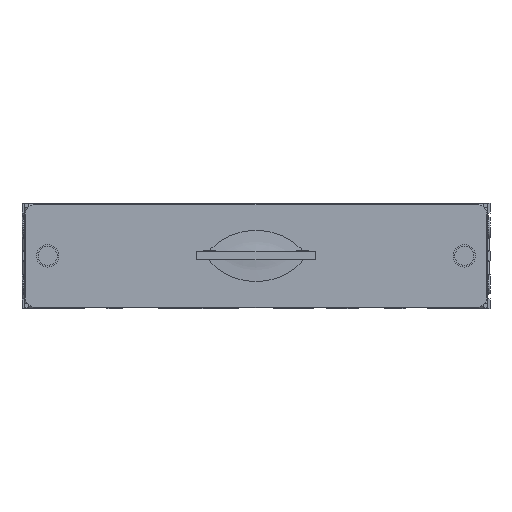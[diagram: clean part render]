
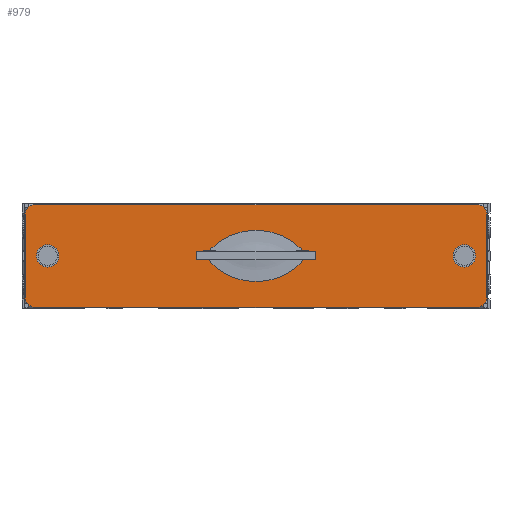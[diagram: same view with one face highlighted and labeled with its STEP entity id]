
A CAD part, top view. The second image highlights one B-rep face of the part: STEP entity #979.
In plain terms, the highlighted planar face has unit normal (0, 0, 1).
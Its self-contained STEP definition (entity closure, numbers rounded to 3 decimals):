
#26 = VERTEX_POINT('',#27);
#27 = CARTESIAN_POINT('',(8.,0.,0.4));
#82 = EDGE_CURVE('',#26,#83,#85,.T.);
#83 = VERTEX_POINT('',#84);
#84 = CARTESIAN_POINT('',(-8.,0.,0.4));
#85 = CIRCLE('',#86,10.);
#86 = AXIS2_PLACEMENT_3D('',#87,#88,#89);
#87 = CARTESIAN_POINT('',(0.,-6.,0.4));
#88 = DIRECTION('',(0.,0.,1.));
#89 = DIRECTION('',(1.,0.,0.));
#488 = EDGE_CURVE('',#83,#26,#489,.T.);
#489 = CIRCLE('',#490,10.);
#490 = AXIS2_PLACEMENT_3D('',#491,#492,#493);
#491 = CARTESIAN_POINT('',(0.,6.,0.4));
#492 = DIRECTION('',(0.,0.,1.));
#493 = DIRECTION('',(-1.,0.,0.));
#979 = ADVANCED_FACE('',(#980,#1050,#1061,#1065),#1076,.T.);
#980 = FACE_BOUND('',#981,.T.);
#981 = EDGE_LOOP('',(#982,#992,#1001,#1009,#1018,#1026,#1035,#1043));
#982 = ORIENTED_EDGE('',*,*,#983,.F.);
#983 = EDGE_CURVE('',#984,#986,#988,.T.);
#984 = VERTEX_POINT('',#985);
#985 = CARTESIAN_POINT('',(-36.,-6.5,0.4));
#986 = VERTEX_POINT('',#987);
#987 = CARTESIAN_POINT('',(-36.,6.5,0.4));
#988 = LINE('',#989,#990);
#989 = CARTESIAN_POINT('',(-36.,-8.,0.4));
#990 = VECTOR('',#991,1.);
#991 = DIRECTION('',(0.,1.,0.));
#992 = ORIENTED_EDGE('',*,*,#993,.T.);
#993 = EDGE_CURVE('',#984,#994,#996,.T.);
#994 = VERTEX_POINT('',#995);
#995 = CARTESIAN_POINT('',(-34.5,-8.,0.4));
#996 = CIRCLE('',#997,1.5);
#997 = AXIS2_PLACEMENT_3D('',#998,#999,#1000);
#998 = CARTESIAN_POINT('',(-34.5,-6.5,0.4));
#999 = DIRECTION('',(-0.,0.,1.));
#1000 = DIRECTION('',(0.,-1.,0.));
#1001 = ORIENTED_EDGE('',*,*,#1002,.T.);
#1002 = EDGE_CURVE('',#994,#1003,#1005,.T.);
#1003 = VERTEX_POINT('',#1004);
#1004 = CARTESIAN_POINT('',(34.5,-8.,0.4));
#1005 = LINE('',#1006,#1007);
#1006 = CARTESIAN_POINT('',(-36.,-8.,0.4));
#1007 = VECTOR('',#1008,1.);
#1008 = DIRECTION('',(1.,0.,0.));
#1009 = ORIENTED_EDGE('',*,*,#1010,.T.);
#1010 = EDGE_CURVE('',#1003,#1011,#1013,.T.);
#1011 = VERTEX_POINT('',#1012);
#1012 = CARTESIAN_POINT('',(36.,-6.5,0.4));
#1013 = CIRCLE('',#1014,1.5);
#1014 = AXIS2_PLACEMENT_3D('',#1015,#1016,#1017);
#1015 = CARTESIAN_POINT('',(34.5,-6.5,0.4));
#1016 = DIRECTION('',(-0.,0.,1.));
#1017 = DIRECTION('',(0.,-1.,0.));
#1018 = ORIENTED_EDGE('',*,*,#1019,.T.);
#1019 = EDGE_CURVE('',#1011,#1020,#1022,.T.);
#1020 = VERTEX_POINT('',#1021);
#1021 = CARTESIAN_POINT('',(36.,6.5,0.4));
#1022 = LINE('',#1023,#1024);
#1023 = CARTESIAN_POINT('',(36.,-8.,0.4));
#1024 = VECTOR('',#1025,1.);
#1025 = DIRECTION('',(0.,1.,0.));
#1026 = ORIENTED_EDGE('',*,*,#1027,.F.);
#1027 = EDGE_CURVE('',#1028,#1020,#1030,.T.);
#1028 = VERTEX_POINT('',#1029);
#1029 = CARTESIAN_POINT('',(34.5,8.,0.4));
#1030 = CIRCLE('',#1031,1.5);
#1031 = AXIS2_PLACEMENT_3D('',#1032,#1033,#1034);
#1032 = CARTESIAN_POINT('',(34.5,6.5,0.4));
#1033 = DIRECTION('',(-0.,-0.,-1.));
#1034 = DIRECTION('',(0.,-1.,0.));
#1035 = ORIENTED_EDGE('',*,*,#1036,.F.);
#1036 = EDGE_CURVE('',#1037,#1028,#1039,.T.);
#1037 = VERTEX_POINT('',#1038);
#1038 = CARTESIAN_POINT('',(-34.5,8.,0.4));
#1039 = LINE('',#1040,#1041);
#1040 = CARTESIAN_POINT('',(-36.,8.,0.4));
#1041 = VECTOR('',#1042,1.);
#1042 = DIRECTION('',(1.,0.,0.));
#1043 = ORIENTED_EDGE('',*,*,#1044,.F.);
#1044 = EDGE_CURVE('',#986,#1037,#1045,.T.);
#1045 = CIRCLE('',#1046,1.5);
#1046 = AXIS2_PLACEMENT_3D('',#1047,#1048,#1049);
#1047 = CARTESIAN_POINT('',(-34.5,6.5,0.4));
#1048 = DIRECTION('',(-0.,-0.,-1.));
#1049 = DIRECTION('',(0.,-1.,0.));
#1050 = FACE_BOUND('',#1051,.T.);
#1051 = EDGE_LOOP('',(#1052));
#1052 = ORIENTED_EDGE('',*,*,#1053,.T.);
#1053 = EDGE_CURVE('',#1054,#1054,#1056,.T.);
#1054 = VERTEX_POINT('',#1055);
#1055 = CARTESIAN_POINT('',(-30.75,0.,0.4));
#1056 = CIRCLE('',#1057,1.75);
#1057 = AXIS2_PLACEMENT_3D('',#1058,#1059,#1060);
#1058 = CARTESIAN_POINT('',(-32.5,0.,0.4));
#1059 = DIRECTION('',(0.,0.,-1.));
#1060 = DIRECTION('',(1.,0.,0.));
#1061 = FACE_BOUND('',#1062,.T.);
#1062 = EDGE_LOOP('',(#1063,#1064));
#1063 = ORIENTED_EDGE('',*,*,#82,.F.);
#1064 = ORIENTED_EDGE('',*,*,#488,.F.);
#1065 = FACE_BOUND('',#1066,.T.);
#1066 = EDGE_LOOP('',(#1067));
#1067 = ORIENTED_EDGE('',*,*,#1068,.T.);
#1068 = EDGE_CURVE('',#1069,#1069,#1071,.T.);
#1069 = VERTEX_POINT('',#1070);
#1070 = CARTESIAN_POINT('',(34.25,0.,0.4));
#1071 = CIRCLE('',#1072,1.75);
#1072 = AXIS2_PLACEMENT_3D('',#1073,#1074,#1075);
#1073 = CARTESIAN_POINT('',(32.5,0.,0.4));
#1074 = DIRECTION('',(0.,0.,-1.));
#1075 = DIRECTION('',(1.,0.,0.));
#1076 = PLANE('',#1077);
#1077 = AXIS2_PLACEMENT_3D('',#1078,#1079,#1080);
#1078 = CARTESIAN_POINT('',(-36.,-8.,0.4));
#1079 = DIRECTION('',(0.,0.,1.));
#1080 = DIRECTION('',(1.,0.,0.));
